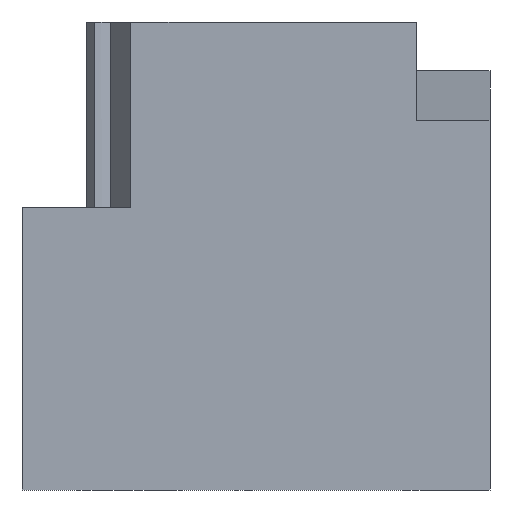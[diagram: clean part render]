
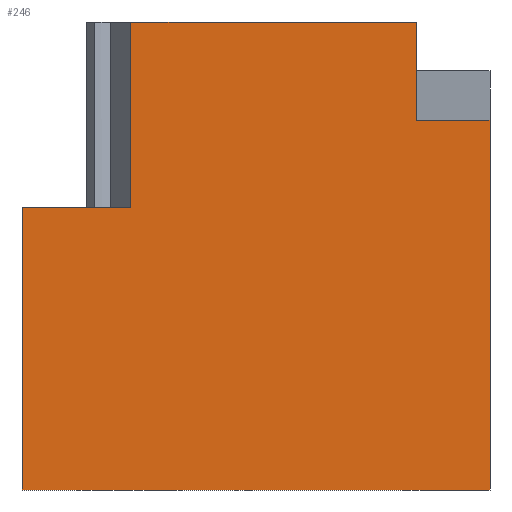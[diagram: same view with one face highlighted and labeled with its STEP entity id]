
A CAD part, front view. The second image highlights one B-rep face of the part: STEP entity #246.
In plain terms, the highlighted planar face has unit normal (0, -1, 0).
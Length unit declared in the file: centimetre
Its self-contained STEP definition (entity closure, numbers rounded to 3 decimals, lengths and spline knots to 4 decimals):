
#24 = ORIENTED_EDGE ( 'NONE', *, *, #483, .T. ) ;
#52 = DIRECTION ( 'NONE',  ( 1., 0., 0. ) ) ;
#92 = ORIENTED_EDGE ( 'NONE', *, *, #516, .F. ) ;
#97 = LINE ( 'NONE', #760, #497 ) ;
#157 = VERTEX_POINT ( 'NONE', #514 ) ;
#161 = CARTESIAN_POINT ( 'NONE',  ( 0., 0., 603.1742 ) ) ;
#209 = CARTESIAN_POINT ( 'NONE',  ( 0., 0., 0. ) ) ;
#215 = ORIENTED_EDGE ( 'NONE', *, *, #856, .F. ) ;
#218 = LINE ( 'NONE', #209, #264 ) ;
#233 = CARTESIAN_POINT ( 'NONE',  ( 0., 0., 1000. ) ) ;
#246 = ADVANCED_FACE ( 'NONE', ( #1206 ), #1107, .F. ) ;
#250 = CARTESIAN_POINT ( 'NONE',  ( 843.512, 0., 1000. ) ) ;
#263 = VERTEX_POINT ( 'NONE', #396 ) ;
#264 = VECTOR ( 'NONE', #52, 100. ) ;
#277 = EDGE_CURVE ( 'NONE', #1226, #753, #218, .T. ) ;
#279 = DIRECTION ( 'NONE',  ( 0., 0., -1. ) ) ;
#285 = VECTOR ( 'NONE', #964, 100. ) ;
#299 = VECTOR ( 'NONE', #509, 100. ) ;
#333 = DIRECTION ( 'NONE',  ( 0., 0., 1. ) ) ;
#393 = LINE ( 'NONE', #1054, #285 ) ;
#396 = CARTESIAN_POINT ( 'NONE',  ( 843.512, 0., 789.6093 ) ) ;
#423 = DIRECTION ( 'NONE',  ( 0., 1., 0. ) ) ;
#482 = LINE ( 'NONE', #500, #589 ) ;
#483 = EDGE_CURVE ( 'NONE', #691, #1226, #482, .T. ) ;
#484 = CARTESIAN_POINT ( 'NONE',  ( 0., 0., 0. ) ) ;
#491 = EDGE_CURVE ( 'NONE', #836, #648, #1178, .T. ) ;
#497 = VECTOR ( 'NONE', #279, 100. ) ;
#499 = LINE ( 'NONE', #692, #671 ) ;
#500 = CARTESIAN_POINT ( 'NONE',  ( 0., 0., 1000. ) ) ;
#508 = CARTESIAN_POINT ( 'NONE',  ( 0., 0., 1000. ) ) ;
#509 = DIRECTION ( 'NONE',  ( 0., 0., 1. ) ) ;
#512 = ORIENTED_EDGE ( 'NONE', *, *, #843, .F. ) ;
#514 = CARTESIAN_POINT ( 'NONE',  ( 1000., 0., 789.6093 ) ) ;
#516 = EDGE_CURVE ( 'NONE', #691, #836, #499, .T. ) ;
#527 = CARTESIAN_POINT ( 'NONE',  ( 232.6625, 0., 1000. ) ) ;
#589 = VECTOR ( 'NONE', #874, 100. ) ;
#614 = DIRECTION ( 'NONE',  ( 1., 0., 0. ) ) ;
#616 = VECTOR ( 'NONE', #681, 100. ) ;
#648 = VERTEX_POINT ( 'NONE', #527 ) ;
#671 = VECTOR ( 'NONE', #614, 100. ) ;
#681 = DIRECTION ( 'NONE',  ( 1., 0., 0. ) ) ;
#691 = VERTEX_POINT ( 'NONE', #161 ) ;
#692 = CARTESIAN_POINT ( 'NONE',  ( 232.6625, 0., 603.1742 ) ) ;
#753 = VERTEX_POINT ( 'NONE', #857 ) ;
#756 = DIRECTION ( 'NONE',  ( 0., 0., -1. ) ) ;
#760 = CARTESIAN_POINT ( 'NONE',  ( 843.512, 0., 789.6093 ) ) ;
#763 = CARTESIAN_POINT ( 'NONE',  ( 232.6625, 0., 603.1742 ) ) ;
#829 = ORIENTED_EDGE ( 'NONE', *, *, #491, .F. ) ;
#836 = VERTEX_POINT ( 'NONE', #763 ) ;
#843 = EDGE_CURVE ( 'NONE', #1151, #263, #97, .T. ) ;
#845 = LINE ( 'NONE', #1052, #1045 ) ;
#856 = EDGE_CURVE ( 'NONE', #263, #157, #393, .T. ) ;
#857 = CARTESIAN_POINT ( 'NONE',  ( 1000., 0., 0. ) ) ;
#874 = DIRECTION ( 'NONE',  ( 0., 0., -1. ) ) ;
#903 = LINE ( 'NONE', #508, #616 ) ;
#921 = EDGE_LOOP ( 'NONE', ( #1139, #829, #92, #24, #1041, #1009, #215, #512 ) ) ;
#933 = EDGE_CURVE ( 'NONE', #648, #1151, #903, .T. ) ;
#964 = DIRECTION ( 'NONE',  ( 1., 0., 0. ) ) ;
#1009 = ORIENTED_EDGE ( 'NONE', *, *, #1222, .F. ) ;
#1041 = ORIENTED_EDGE ( 'NONE', *, *, #277, .T. ) ;
#1045 = VECTOR ( 'NONE', #756, 100. ) ;
#1052 = CARTESIAN_POINT ( 'NONE',  ( 1000., 0., 1000. ) ) ;
#1054 = CARTESIAN_POINT ( 'NONE',  ( 843.512, 0., 789.6093 ) ) ;
#1056 = AXIS2_PLACEMENT_3D ( 'NONE', #233, #423, #333 ) ;
#1067 = CARTESIAN_POINT ( 'NONE',  ( 232.6625, 0., 603.1742 ) ) ;
#1107 = PLANE ( 'NONE',  #1056 ) ;
#1139 = ORIENTED_EDGE ( 'NONE', *, *, #933, .F. ) ;
#1151 = VERTEX_POINT ( 'NONE', #250 ) ;
#1178 = LINE ( 'NONE', #1067, #299 ) ;
#1206 = FACE_OUTER_BOUND ( 'NONE', #921, .T. ) ;
#1222 = EDGE_CURVE ( 'NONE', #157, #753, #845, .T. ) ;
#1226 = VERTEX_POINT ( 'NONE', #484 ) ;
